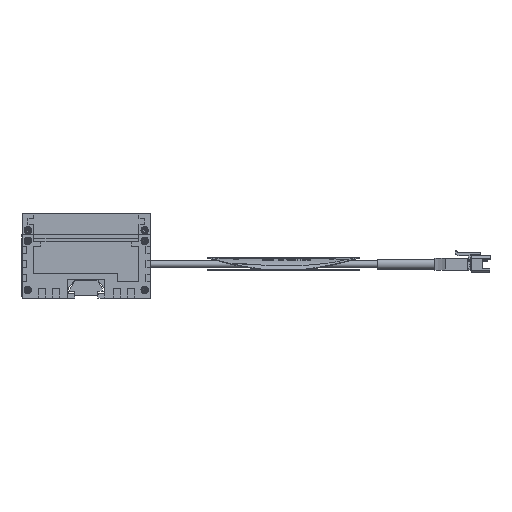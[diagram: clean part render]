
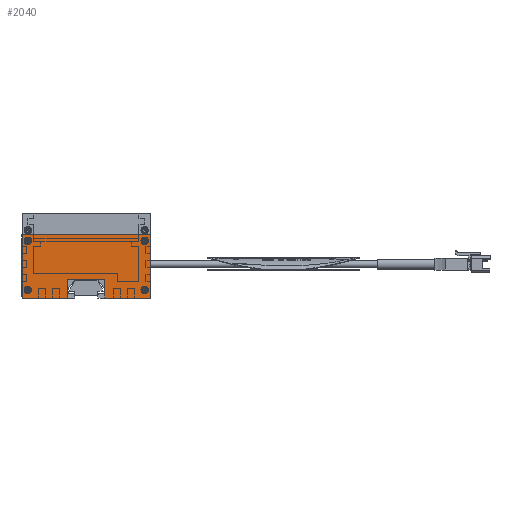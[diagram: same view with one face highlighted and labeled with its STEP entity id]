
A CAD part, left-side view. The second image highlights one B-rep face of the part: STEP entity #2040.
In plain terms, the highlighted planar face has unit normal (-1, 0, 0) as drawn and (1, 0, 0) by its records, which use the part's own axes.
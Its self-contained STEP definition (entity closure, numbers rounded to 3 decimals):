
#2040=ADVANCED_FACE('',(#4143,#4144,#4145,#4146,#4147),#4148,.T.);
#4143=FACE_OUTER_BOUND('',#6903,.T.);
#4144=FACE_BOUND('',#6904,.T.);
#4145=FACE_BOUND('',#6905,.T.);
#4146=FACE_BOUND('',#6906,.T.);
#4147=FACE_BOUND('',#6907,.T.);
#4148=PLANE('',#6908);
#6903=EDGE_LOOP('',(#11615,#11616,#11617,#11618,#11619,#11620,#11621,#11622,#11623,#11624));
#6904=EDGE_LOOP('',(#11625,#11626));
#6905=EDGE_LOOP('',(#11627,#11628));
#6906=EDGE_LOOP('',(#11629,#11630));
#6907=EDGE_LOOP('',(#11631,#11632));
#6908=AXIS2_PLACEMENT_3D('',#11633,#11634,#11635);
#11615=ORIENTED_EDGE('',*,*,#17252,.T.);
#11616=ORIENTED_EDGE('',*,*,#17253,.T.);
#11617=ORIENTED_EDGE('',*,*,#17254,.T.);
#11618=ORIENTED_EDGE('',*,*,#17255,.T.);
#11619=ORIENTED_EDGE('',*,*,#17256,.T.);
#11620=ORIENTED_EDGE('',*,*,#17257,.T.);
#11621=ORIENTED_EDGE('',*,*,#17258,.T.);
#11622=ORIENTED_EDGE('',*,*,#17259,.T.);
#11623=ORIENTED_EDGE('',*,*,#17260,.T.);
#11624=ORIENTED_EDGE('',*,*,#17261,.T.);
#11625=ORIENTED_EDGE('',*,*,#17233,.F.);
#11626=ORIENTED_EDGE('',*,*,#17262,.T.);
#11627=ORIENTED_EDGE('',*,*,#17228,.F.);
#11628=ORIENTED_EDGE('',*,*,#17263,.T.);
#11629=ORIENTED_EDGE('',*,*,#17223,.F.);
#11630=ORIENTED_EDGE('',*,*,#17264,.T.);
#11631=ORIENTED_EDGE('',*,*,#17218,.F.);
#11632=ORIENTED_EDGE('',*,*,#17265,.T.);
#11633=CARTESIAN_POINT('',(1.0,0.0,0.0));
#11634=DIRECTION('',(1.0,0.0,0.0));
#11635=DIRECTION('',(0.0,1.0,0.0));
#17218=EDGE_CURVE('',#21012,#21014,#21015,.T.);
#17223=EDGE_CURVE('',#21021,#21023,#21024,.T.);
#17228=EDGE_CURVE('',#21030,#21032,#21033,.T.);
#17233=EDGE_CURVE('',#21039,#21041,#21042,.T.);
#17252=EDGE_CURVE('',#21069,#21070,#21071,.T.);
#17253=EDGE_CURVE('',#21070,#21072,#21073,.T.);
#17254=EDGE_CURVE('',#21072,#21074,#21075,.T.);
#17255=EDGE_CURVE('',#21074,#21076,#21077,.T.);
#17256=EDGE_CURVE('',#21076,#21078,#21079,.T.);
#17257=EDGE_CURVE('',#21078,#21080,#21081,.T.);
#17258=EDGE_CURVE('',#21080,#21082,#21083,.T.);
#17259=EDGE_CURVE('',#21082,#21084,#21085,.T.);
#17260=EDGE_CURVE('',#21084,#21086,#21087,.T.);
#17261=EDGE_CURVE('',#21086,#21069,#21088,.T.);
#17262=EDGE_CURVE('',#21039,#21041,#21089,.T.);
#17263=EDGE_CURVE('',#21030,#21032,#21090,.T.);
#17264=EDGE_CURVE('',#21021,#21023,#21091,.T.);
#17265=EDGE_CURVE('',#21012,#21014,#21092,.T.);
#21012=VERTEX_POINT('',#28560);
#21014=VERTEX_POINT('',#28563);
#21015=CIRCLE('',#28564,1.6);
#21021=VERTEX_POINT('',#28571);
#21023=VERTEX_POINT('',#28574);
#21024=CIRCLE('',#28575,1.6);
#21030=VERTEX_POINT('',#28582);
#21032=VERTEX_POINT('',#28585);
#21033=CIRCLE('',#28586,1.6);
#21039=VERTEX_POINT('',#28593);
#21041=VERTEX_POINT('',#28596);
#21042=CIRCLE('',#28597,1.6);
#21069=VERTEX_POINT('',#28633);
#21070=VERTEX_POINT('',#28634);
#21071=LINE('',#28635,#28636);
#21072=VERTEX_POINT('',#28637);
#21073=LINE('',#28638,#28639);
#21074=VERTEX_POINT('',#28640);
#21075=LINE('',#28641,#28642);
#21076=VERTEX_POINT('',#28643);
#21077=LINE('',#28644,#28645);
#21078=VERTEX_POINT('',#28646);
#21079=LINE('',#28647,#28648);
#21080=VERTEX_POINT('',#28649);
#21081=LINE('',#28650,#28651);
#21082=VERTEX_POINT('',#28652);
#21083=LINE('',#28653,#28654);
#21084=VERTEX_POINT('',#28655);
#21085=LINE('',#28656,#28657);
#21086=VERTEX_POINT('',#28658);
#21087=LINE('',#28659,#28660);
#21088=LINE('',#28661,#28662);
#21089=CIRCLE('',#28663,1.6);
#21090=CIRCLE('',#28664,1.6);
#21091=CIRCLE('',#28665,1.6);
#21092=CIRCLE('',#28666,1.6);
#28560=CARTESIAN_POINT('',(1.0,23.5,-0.9));
#28563=CARTESIAN_POINT('',(1.0,23.5,-4.1));
#28564=AXIS2_PLACEMENT_3D('',#32866,#32867,#32868);
#28571=CARTESIAN_POINT('',(1.0,23.5,-50.9));
#28574=CARTESIAN_POINT('',(1.0,23.5,-54.1));
#28575=AXIS2_PLACEMENT_3D('',#32874,#32875,#32876);
#28582=CARTESIAN_POINT('',(1.0,2.5,-0.9));
#28585=CARTESIAN_POINT('',(1.0,2.5,-4.1));
#28586=AXIS2_PLACEMENT_3D('',#32882,#32883,#32884);
#28593=CARTESIAN_POINT('',(1.0,2.5,-50.9));
#28596=CARTESIAN_POINT('',(1.0,2.5,-54.1));
#28597=AXIS2_PLACEMENT_3D('',#32890,#32891,#32892);
#28633=CARTESIAN_POINT('',(1.0,0.0,-55.0));
#28634=CARTESIAN_POINT('',(1.0,26.5,-55.0));
#28635=CARTESIAN_POINT('',(1.0,0.0,-55.0));
#28636=VECTOR('',#32914,26.5);
#28637=CARTESIAN_POINT('',(1.0,27.0,-54.5));
#28638=CARTESIAN_POINT('',(1.0,26.5,-55.0));
#28639=VECTOR('',#32915,0.707);
#28640=CARTESIAN_POINT('',(1.0,27.0,-35.5));
#28641=CARTESIAN_POINT('',(1.0,27.0,-54.5));
#28642=VECTOR('',#32916,19.0);
#28643=CARTESIAN_POINT('',(1.0,19.0,-35.5));
#28644=CARTESIAN_POINT('',(1.0,27.0,-35.5));
#28645=VECTOR('',#32917,8.0);
#28646=CARTESIAN_POINT('',(1.0,19.0,-19.5));
#28647=CARTESIAN_POINT('',(1.0,19.0,-35.5));
#28648=VECTOR('',#32918,16.0);
#28649=CARTESIAN_POINT('',(1.0,27.0,-19.5));
#28650=CARTESIAN_POINT('',(1.0,19.0,-19.5));
#28651=VECTOR('',#32919,8.0);
#28652=CARTESIAN_POINT('',(1.0,27.0,-0.5));
#28653=CARTESIAN_POINT('',(1.0,27.0,-19.5));
#28654=VECTOR('',#32920,19.0);
#28655=CARTESIAN_POINT('',(1.0,26.5,0.0));
#28656=CARTESIAN_POINT('',(1.0,27.0,-0.5));
#28657=VECTOR('',#32921,0.707);
#28658=CARTESIAN_POINT('',(1.0,0.0,0.0));
#28659=CARTESIAN_POINT('',(1.0,26.5,0.0));
#28660=VECTOR('',#32922,26.5);
#28661=CARTESIAN_POINT('',(1.0,0.0,0.0));
#28662=VECTOR('',#32923,55.0);
#28663=AXIS2_PLACEMENT_3D('',#32924,#32925,#32926);
#28664=AXIS2_PLACEMENT_3D('',#32927,#32928,#32929);
#28665=AXIS2_PLACEMENT_3D('',#32930,#32931,#32932);
#28666=AXIS2_PLACEMENT_3D('',#32933,#32934,#32935);
#32866=CARTESIAN_POINT('',(1.0,23.5,-2.5));
#32867=DIRECTION('',(1.0,0.0,0.0));
#32868=DIRECTION('',(0.0,0.,1.0));
#32874=CARTESIAN_POINT('',(1.0,23.5,-52.5));
#32875=DIRECTION('',(1.0,0.0,0.0));
#32876=DIRECTION('',(0.0,0.,1.0));
#32882=CARTESIAN_POINT('',(1.0,2.5,-2.5));
#32883=DIRECTION('',(1.0,0.0,0.0));
#32884=DIRECTION('',(0.0,0.,1.0));
#32890=CARTESIAN_POINT('',(1.0,2.5,-52.5));
#32891=DIRECTION('',(1.0,0.0,0.0));
#32892=DIRECTION('',(0.0,0.,1.0));
#32914=DIRECTION('',(0.0,1.0,0.0));
#32915=DIRECTION('',(0.0,0.707,0.707));
#32916=DIRECTION('',(0.0,0.0,1.0));
#32917=DIRECTION('',(0.0,-1.0,0.0));
#32918=DIRECTION('',(0.0,0.0,1.0));
#32919=DIRECTION('',(0.0,1.0,0.0));
#32920=DIRECTION('',(0.0,0.0,1.0));
#32921=DIRECTION('',(0.0,-0.707,0.707));
#32922=DIRECTION('',(0.0,-1.0,0.0));
#32923=DIRECTION('',(0.0,0.0,-1.0));
#32924=CARTESIAN_POINT('',(1.0,2.5,-52.5));
#32925=DIRECTION('',(-1.0,0.0,0.0));
#32926=DIRECTION('',(0.0,0.,1.0));
#32927=CARTESIAN_POINT('',(1.0,2.5,-2.5));
#32928=DIRECTION('',(-1.0,0.,0.0));
#32929=DIRECTION('',(0.0,0.0,1.0));
#32930=CARTESIAN_POINT('',(1.0,23.5,-52.5));
#32931=DIRECTION('',(-1.0,0.0,0.0));
#32932=DIRECTION('',(0.0,0.0,1.0));
#32933=CARTESIAN_POINT('',(1.0,23.5,-2.5));
#32934=DIRECTION('',(-1.0,0.0,0.0));
#32935=DIRECTION('',(0.0,0.,1.0));
